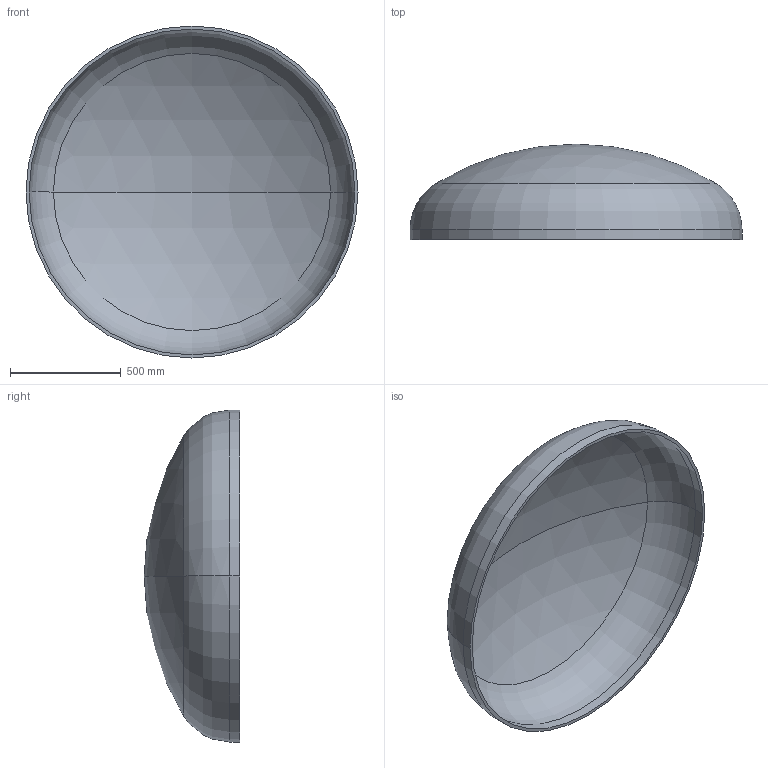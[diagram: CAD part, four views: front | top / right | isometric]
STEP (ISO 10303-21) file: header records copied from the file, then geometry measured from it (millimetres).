
FILE_DESCRIPTION (( 'STEP AP203' ), '1' );
FILE_NAME ('DIN 28013 Korbbogenform_-_Boden DIN 28013 - 1500 x 45 - I - s=14.step', '2016-07-01T10:36:38', ( '' ), ( '' ), 'SwSTEP 2.0', 'SolidWorks 2013', '' );
FILE_SCHEMA (( 'CONFIG_CONTROL_DESIGN' ));
Length unit declared in the file: millimetre
Products named in the file (1): DIN 28013 Korbbogenform_-_Boden DIN 28013 - 1500 x 45 - I - s=14
Bounding box: 1500 x 431.43 x 1500 mm (x, y, z)
Volume: 36756707.7 mm3; surface area: 5316724.5 mm2
Topology: 1 solids, 1 shells, 13 faces, 24 edges, 14 vertices
Faces by surface type: torus 4, cylinder 4, sphere 4, plane 1
Entity records: 407 total; most frequent: DIRECTION 72, CARTESIAN_POINT 52, ORIENTED_EDGE 48, AXIS2_PLACEMENT_3D 34, EDGE_CURVE 24, CIRCLE 20, EDGE_LOOP 14, VERTEX_POINT 14
